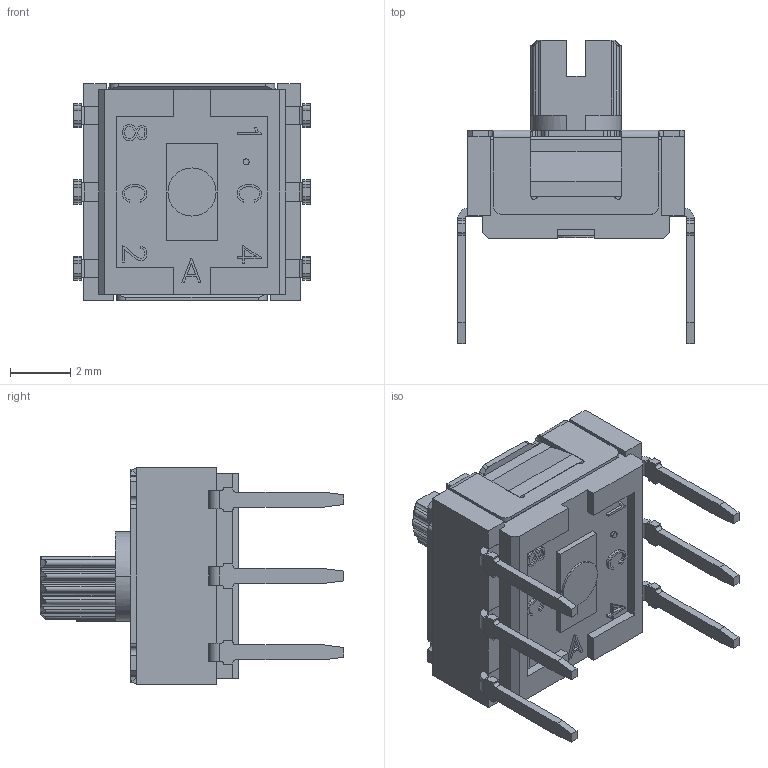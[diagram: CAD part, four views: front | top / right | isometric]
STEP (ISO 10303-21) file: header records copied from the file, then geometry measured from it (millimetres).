
FILE_DESCRIPTION (( 'STEP AP203' ), '1' );
FILE_NAME ('RSH-2ARH.STEP', '2019-07-05T05:49:18', ( '' ), ( '' ), 'SwSTEP 2.0', 'SolidWorks 2017', '' );
FILE_SCHEMA (( 'CONFIG_CONTROL_DESIGN' ));
Length unit declared in the file: millimetre
Products named in the file (6): ROTOR10_No.2; RSH-2ARH; RSH-C01_10P; RSH-T01_H(6 PIN); RSH-B01; RSH-B01_H(6 PIN)
Assembly tree (5 placements, depth 3):
  RSH-2ARH
    RSH-B01_H(6 PIN)
      RSH-B01
      RSH-T01_H(6 PIN)
    RSH-C01_10P
    ROTOR10_No.2
Bounding box: 7.87 x 10.1 x 7.2 mm (x, y, z)
Volume: 156.4 mm3; surface area: 694.6 mm2
Topology: 4 solids, 4 shells, 1293 faces, 3615 edges, 2350 vertices
Faces by surface type: plane 823, cylinder 368, bspline 97, cone 5
Entity records: 47432 total; most frequent: CARTESIAN_POINT 13955, ORIENTED_EDGE 7230, DIRECTION 6364, EDGE_CURVE 3615, VECTOR 2462, LINE 2462, VERTEX_POINT 2350, AXIS2_PLACEMENT_3D 1951
